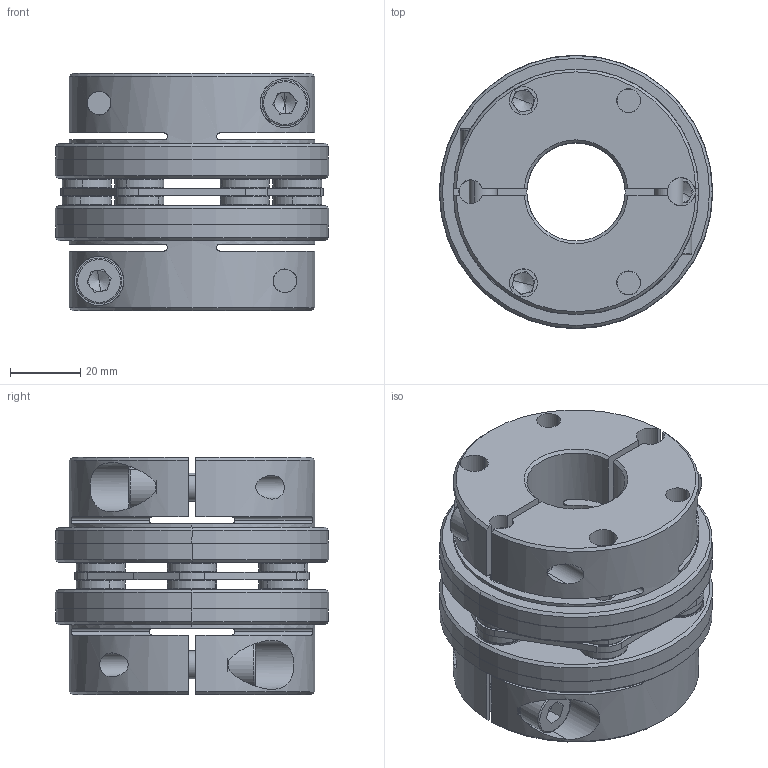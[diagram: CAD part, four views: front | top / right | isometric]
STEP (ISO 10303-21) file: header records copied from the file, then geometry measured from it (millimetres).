
FILE_DESCRIPTION (( 'STEP AP203' ), '1' );
FILE_NAME ('SCDS-78C-TYPE4(28X28).STEP', '2021-12-27T01:36:59', ( '' ), ( '' ), 'SwSTEP 2.0', 'SolidWorks 2021', '' );
FILE_SCHEMA (( 'CONFIG_CONTROL_DESIGN' ));
Length unit declared in the file: millimetre
Products named in the file (1): SCDS-78C-TYPE4(28X28)
Bounding box: 78 x 78 x 67.7 mm (x, y, z)
Volume: 191380.7 mm3; surface area: 66491.7 mm2
Topology: 1 solids, 13 shells, 681 faces, 1653 edges, 1016 vertices
Faces by surface type: cylinder 251, plane 214, cone 120, torus 96
Entity records: 21246 total; most frequent: CARTESIAN_POINT 4667, DIRECTION 3763, ORIENTED_EDGE 3266, EDGE_CURVE 1633, AXIS2_PLACEMENT_3D 1548, VERTEX_POINT 1016, CIRCLE 866, EDGE_LOOP 793
